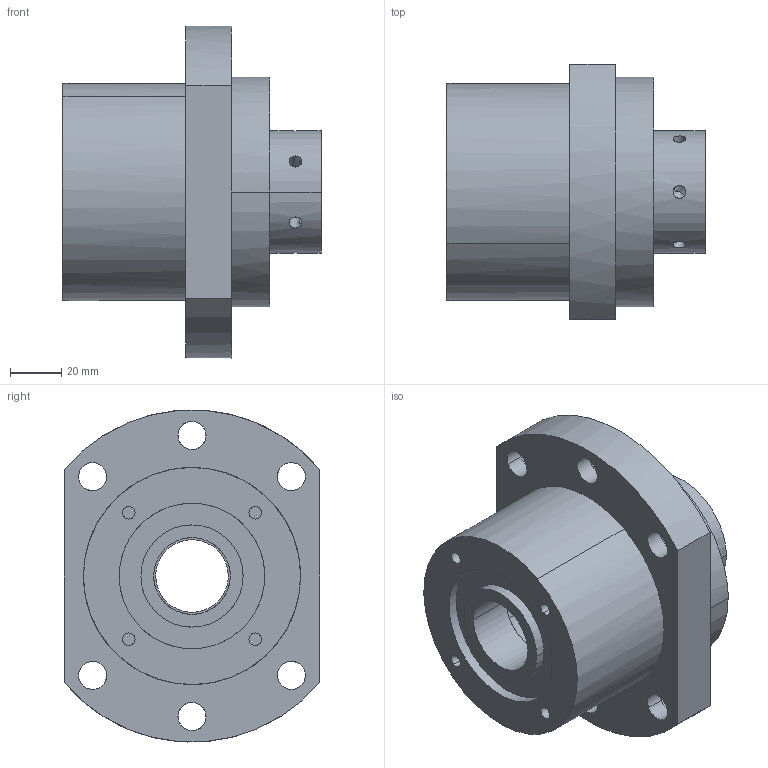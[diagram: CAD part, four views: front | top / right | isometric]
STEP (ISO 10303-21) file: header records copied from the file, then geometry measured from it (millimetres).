
FILE_DESCRIPTION(('CATIA V5 STEP Exchange'),'2;1');
FILE_NAME('D:\서포트 완성도면\WBK\WBK30DFD.stp','2014-03-26T10:23:28+00:00',('none'),('none'),'CATIA Version 5 Release 18 GA (IN-10)','CATIA V5 STEP AP203','none');
FILE_SCHEMA(('CONFIG_CONTROL_DESIGN'));
Length unit declared in the file: millimetre
Products named in the file (1): WBK30DFD
Assembly tree (4 placements, depth 2):
  WBK30DFD
    #56
    #3785  x2
    #4061
Bounding box: 101 x 100 x 129.95 mm (x, y, z)
Volume: 508616 mm3; surface area: 78999 mm2
Topology: 4 solids, 4 shells, 146 faces, 361 edges, 231 vertices
Faces by surface type: cylinder 92, plane 30, cone 24
Entity records: 6402 total; most frequent: CARTESIAN_POINT 3339, ORIENTED_EDGE 674, DIRECTION 439, EDGE_CURVE 337, VERTEX_POINT 223, EDGE_LOOP 190, AXIS2_PLACEMENT_3D 189, B_SPLINE_CURVE_WITH_KNOTS 172
